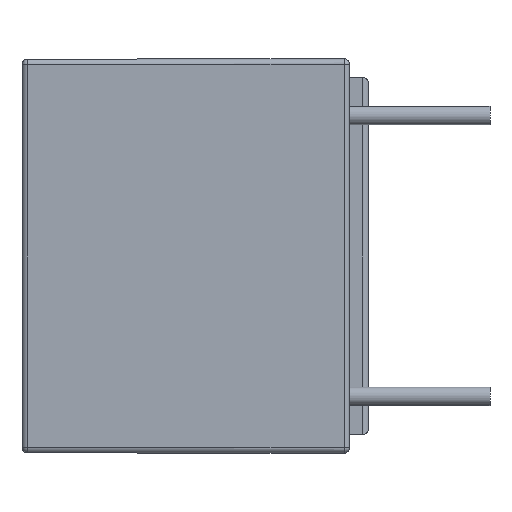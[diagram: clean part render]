
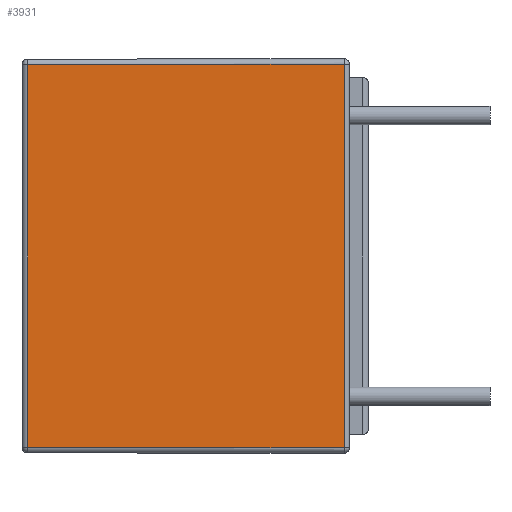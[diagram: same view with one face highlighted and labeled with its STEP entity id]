
A CAD part, left-side view. The second image highlights one B-rep face of the part: STEP entity #3931.
In plain terms, the highlighted planar face has unit normal (-1, 0.001, 0).
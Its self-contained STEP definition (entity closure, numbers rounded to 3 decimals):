
#1484 = VERTEX_POINT ( 'NONE', #39700 ) ;
#1485 = VERTEX_POINT ( 'NONE', #39702 ) ;
#1486 = VERTEX_POINT ( 'NONE', #39704 ) ;
#1487 = VERTEX_POINT ( 'NONE', #39706 ) ;
#3931 = ADVANCED_FACE ( 'NONE', ( #44802 ), #46310, .T. ) ;
#6094 = EDGE_CURVE ( 'NONE', #1484, #1485, #7761, .T. ) ;
#6100 = EDGE_CURVE ( 'NONE', #1487, #1484, #7773, .T. ) ;
#6103 = EDGE_CURVE ( 'NONE', #1486, #1487, #7778, .T. ) ;
#6104 = EDGE_CURVE ( 'NONE', #1485, #1486, #7780, .T. ) ;
#7160 = CARTESIAN_POINT ( 'NONE',  ( -9.394, 8.742, -5.344 ) ) ;
#7161 = DIRECTION ( 'NONE',  ( 0., 0., -1. ) ) ;
#7172 = CARTESIAN_POINT ( 'NONE',  ( -9.4, 0., 5.2 ) ) ;
#7173 = DIRECTION ( 'NONE',  ( 0.001, 1., -0.001 ) ) ;
#7179 = CARTESIAN_POINT ( 'NONE',  ( -9.4, 0.15, 5.35 ) ) ;
#7180 = DIRECTION ( 'NONE',  ( 0., 0., 1. ) ) ;
#7181 = CARTESIAN_POINT ( 'NONE',  ( -9.4, 0.007, -5.2 ) ) ;
#7182 = DIRECTION ( 'NONE',  ( -0.001, -1., -0.001 ) ) ;
#7761 = LINE ( 'NONE', #7160, #7762 ) ;
#7762 = VECTOR ( 'NONE', #7161, 1000. ) ;
#7773 = LINE ( 'NONE', #7172, #7774 ) ;
#7774 = VECTOR ( 'NONE', #7173, 1000. ) ;
#7778 = LINE ( 'NONE', #7179, #7779 ) ;
#7779 = VECTOR ( 'NONE', #7180, 1000. ) ;
#7780 = LINE ( 'NONE', #7181, #7781 ) ;
#7781 = VECTOR ( 'NONE', #7182, 1000. ) ;
#18241 = ORIENTED_EDGE ( 'NONE', *, *, #6094, .T. ) ;
#18242 = ORIENTED_EDGE ( 'NONE', *, *, #6104, .T. ) ;
#18243 = ORIENTED_EDGE ( 'NONE', *, *, #6103, .T. ) ;
#18244 = ORIENTED_EDGE ( 'NONE', *, *, #6100, .T. ) ;
#18389 = EDGE_LOOP ( 'NONE', ( #18241, #18242, #18243, #18244 ) ) ;
#39700 = CARTESIAN_POINT ( 'NONE',  ( -9.394, 8.742, 5.194 ) ) ;
#39702 = CARTESIAN_POINT ( 'NONE',  ( -9.394, 8.742, -5.194 ) ) ;
#39704 = CARTESIAN_POINT ( 'NONE',  ( -9.4, 0.15, -5.2 ) ) ;
#39706 = CARTESIAN_POINT ( 'NONE',  ( -9.4, 0.15, 5.2 ) ) ;
#44802 = FACE_OUTER_BOUND ( 'NONE', #18389, .T. ) ;
#45055 = AXIS2_PLACEMENT_3D ( 'NONE', #46311, #46312, #46313 ) ;
#46310 = PLANE ( 'NONE',  #45055 ) ;
#46311 = CARTESIAN_POINT ( 'NONE',  ( -9.4, 0., 5.35 ) ) ;
#46312 = DIRECTION ( 'NONE',  ( -1., 0.001, 0. ) ) ;
#46313 = DIRECTION ( 'NONE',  ( -0.001, -1., 0. ) ) ;
